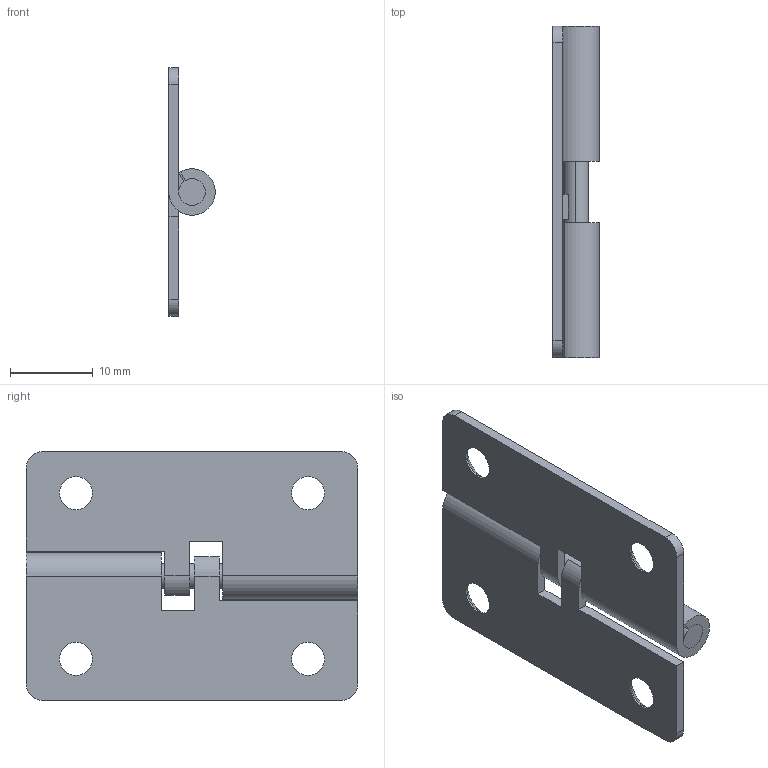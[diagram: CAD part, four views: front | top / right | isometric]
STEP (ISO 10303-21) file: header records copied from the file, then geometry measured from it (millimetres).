
FILE_DESCRIPTION (( 'STEP AP203' ), '1' );
FILE_NAME ('DEH-31-2(R).STEP', '2013-08-29T05:38:30', ( '中村　妙子' ), ( 'ＮＴ設計' ), 'SwSTEP 2.0', 'SolidWorks 2002296', '' );
FILE_SCHEMA (( 'CONFIG_CONTROL_DESIGN' ));
Length unit declared in the file: millimetre
Products named in the file (3): DEH-31-2(R); DEH-31-2-1(R)_蹬怮椔; DEH-31-2-2(R)_蹬怮椔
Assembly tree (3 placements, depth 2):
  DEH-31-2(R)
    DEH-31-2-2(R)_蹬怮椔  x2
    DEH-31-2-1(R)_蹬怮椔
Bounding box: 5.6 x 40 x 30 mm (x, y, z)
Volume: 1915.1 mm3; surface area: 3539 mm2
Topology: 3 solids, 3 shells, 61 faces, 152 edges, 98 vertices
Faces by surface type: plane 27, cylinder 24, cone 10
Entity records: 1369 total; most frequent: DIRECTION 200, CARTESIAN_POINT 179, ORIENTED_EDGE 168, EDGE_CURVE 84, AXIS2_PLACEMENT_3D 75, VERTEX_POINT 54, LINE 50, VECTOR 50
